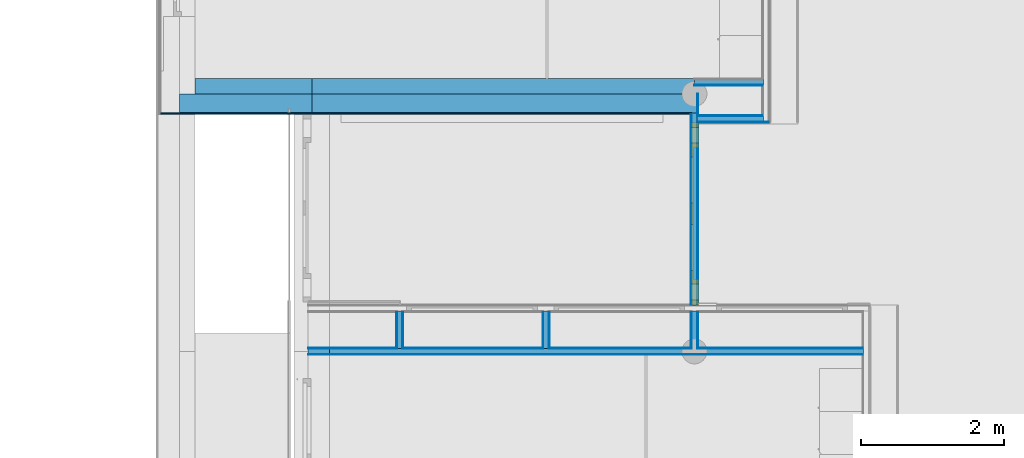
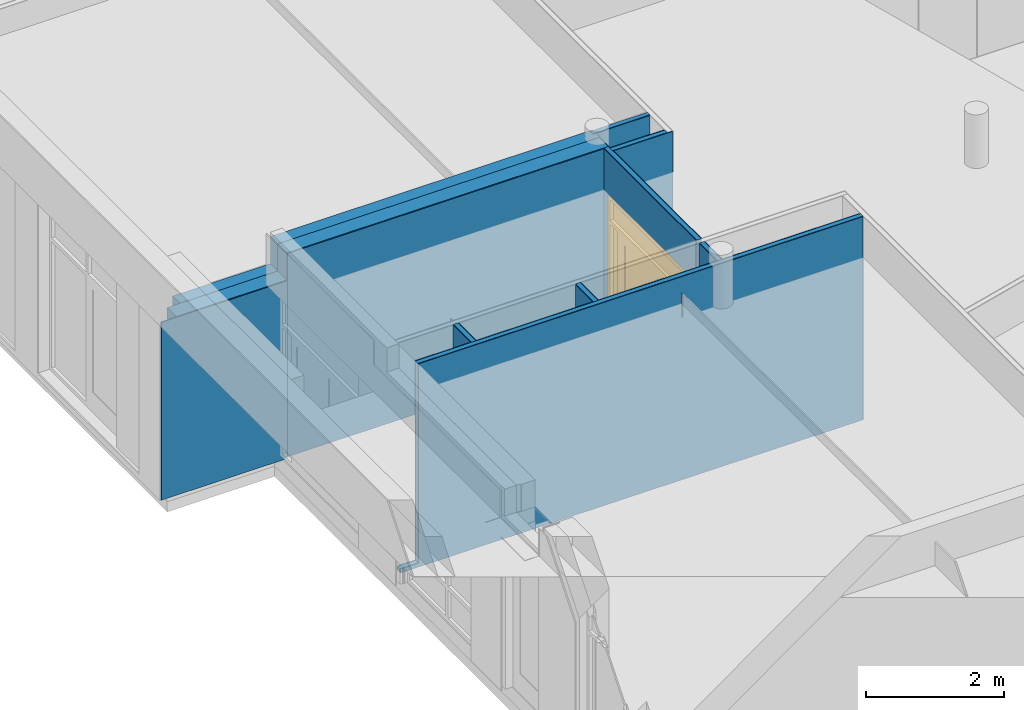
# One storey, part 58 of 167: 23 building element parts, 1 door, 2 openings, 8 elements without a shape of their own.
"""IFC2X3 building model written with IfcOpenShell, lengths in millimetres."""

import ifcopenshell
import ifcopenshell.guid

model = None  # the IFC model being written
_history = None  # IfcOwnerHistory: only IFC2X3 demands one
_inside = {}  # id of a spatial element -> (the spatial element, [elements in it])
_under = {}  # id of a project, library or spatial element -> (it, [spatial elements below it])
_declared = {}  # id of a project -> (the project, [libraries it declares])
_typed = {}  # id of a type object -> (the type object, [elements of that type])
_made_of = {}  # id of a material, layer set ... -> (it, [elements and type objects made of it])


def new_model(schema):
    """Start an empty IFC model of exactly this schema.

    Asked for "IFC4X3", IfcOpenShell would pick the latest addendum, in which some entities
    have other attributes; the version numbers below select the first issue.
    IFC2X3 requires an IfcOwnerHistory on every rooted entity: one is made here for all.
    """
    global model, _history
    if schema == "IFC4X3":
        model = ifcopenshell.file(schema_version=(4, 3, 0, 0))
    else:
        model = ifcopenshell.file(schema=schema)
    _inside.clear()
    _under.clear()
    _declared.clear()
    _typed.clear()
    _made_of.clear()
    _history = None
    if model.schema == "IFC2X3":
        org = make("IfcOrganization", Name="unknown")
        user = make(
            "IfcPersonAndOrganization",
            ThePerson=make("IfcPerson", FamilyName="unknown"),
            TheOrganization=org,
        )
        app = make(
            "IfcApplication",
            ApplicationDeveloper=org,
            Version="unknown",
            ApplicationFullName="unknown",
            ApplicationIdentifier="unknown",
        )
        _history = make(
            "IfcOwnerHistory",
            OwningUser=user,
            OwningApplication=app,
            ChangeAction="ADDED",
            CreationDate=0,
        )
    return model


def make(cls, **values):
    """One entity of the class cls with the attributes given. An attribute that is None is left unset."""
    return model.create_entity(
        cls, **{name: value for name, value in values.items() if value is not None}
    )


def entity(cls, *values):
    """Any entity or typed value of the class cls, its attributes in the order of the schema. None: left unset."""
    e = model.create_entity(cls)
    for i, value in enumerate(values):
        if value is not None:
            e[i] = value
    return e


def rooted(cls, **values):
    """An entity with a GlobalId (a new one), such as an element, a storey or a relation."""
    return make(cls, GlobalId=ifcopenshell.guid.new(), OwnerHistory=_history, **values)


def si_unit(unit_type, name, prefix=None):
    """IfcSIUnit, for example si_unit("LENGTHUNIT", "METRE", prefix="MILLI")."""
    return make("IfcSIUnit", UnitType=unit_type, Prefix=prefix, Name=name)


def converted_unit(unit_type, name, factor, base, dimensions=None, offset=None):
    """IfcConversionBasedUnit, such as the inch: factor (a typed value) times the base unit."""
    return make(
        "IfcConversionBasedUnit"
        if offset is None
        else "IfcConversionBasedUnitWithOffset",
        ConversionOffset=offset,
        Dimensions=None
        if dimensions is None
        else entity("IfcDimensionalExponents", *dimensions),
        UnitType=unit_type,
        Name=name,
        ConversionFactor=make(
            "IfcMeasureWithUnit", ValueComponent=factor, UnitComponent=base
        ),
    )


def derived_unit(unit_type, elements):
    """IfcDerivedUnit: a product of units, each with its exponent."""
    return make(
        "IfcDerivedUnit",
        Elements=[
            make("IfcDerivedUnitElement", Unit=unit, Exponent=power)
            for unit, power in elements
        ],
        UnitType=unit_type,
    )


def money_unit(currency):
    """IfcMonetaryUnit."""
    return make("IfcMonetaryUnit", Currency=currency)


def assignment(units):
    """IfcUnitAssignment: the units of a project."""
    return None if units is None else make("IfcUnitAssignment", Units=units)


def point(xyz):
    """IfcCartesianPoint."""
    return None if xyz is None else make("IfcCartesianPoint", Coordinates=xyz)


def direction(xyz):
    """IfcDirection."""
    return None if xyz is None else make("IfcDirection", DirectionRatios=xyz)


def frame(location, z_axis=None, x_axis=None):
    """IfcAxis2Placement3D, a coordinate frame: its origin and axes. An axis left out is left unset."""
    return make(
        "IfcAxis2Placement3D",
        Location=point(location),
        Axis=direction(z_axis),
        RefDirection=direction(x_axis),
    )


def origin_with_axes():
    """The frame at (0, 0, 0) with the z axis (0, 0, 1) and the x axis (1, 0, 0) written out."""
    return frame((0.0, 0.0, 0.0), z_axis=(0.0, 0.0, 1.0), x_axis=(1.0, 0.0, 0.0))


def place(relative_to, where):
    """IfcLocalPlacement: puts the frame where relative to a parent placement (None: the world)."""
    return make(
        "IfcLocalPlacement", PlacementRelTo=relative_to, RelativePlacement=where
    )


def context(
    kind, dimensions, precision=None, world=None, true_north=None, identifier=None
):
    """IfcGeometricRepresentationContext, for example the 3D "Model" context."""
    return make(
        "IfcGeometricRepresentationContext",
        ContextIdentifier=identifier,
        ContextType=kind,
        CoordinateSpaceDimension=dimensions,
        Precision=precision,
        WorldCoordinateSystem=world,
        TrueNorth=true_north,
    )


def subcontext(parent, identifier, kind, view, scale=None):
    """IfcGeometricRepresentationSubContext, for example "Body" below "Model"."""
    return make(
        "IfcGeometricRepresentationSubContext",
        ContextIdentifier=identifier,
        ContextType=kind,
        ParentContext=parent,
        TargetScale=scale,
        TargetView=view,
    )


def project(units=None, contexts=None):
    """IfcProject with its units and contexts."""
    return rooted(
        "IfcProject",
        Name="project",
        RepresentationContexts=contexts,
        UnitsInContext=assignment(units),
    )


def spatial(cls, under=None, at=None, **own):
    """A site, building, storey or space (cls), placed at a placement, below another one or the project."""
    s = rooted(cls, ObjectPlacement=at, **own)
    if under is not None:
        _under.setdefault(under.id(), (under, []))[1].append(s)
    return s


def faces_of(points, faces, orient=None, outer=None):
    """IfcFace entities. A face is a list of loops; a loop is a list of indices into points, from 0.

    orient and outer hold one flag for each loop. By default every Orientation is true, the
    first loop of a face is its IfcFaceOuterBound and the others are IfcFaceBound.
    """
    made = []
    for i, loops in enumerate(faces):
        bounds = []
        for j, loop in enumerate(loops):
            is_outer = j == 0 if outer is None else outer[i][j]
            bounds.append(
                make(
                    "IfcFaceOuterBound" if is_outer else "IfcFaceBound",
                    Bound=make("IfcPolyLoop", Polygon=[points[k] for k in loop]),
                    Orientation=True if orient is None else orient[i][j],
                )
            )
        made.append(make("IfcFace", Bounds=bounds))
    return made


def open_shell(faces, orient=None, outer=None):
    """The faces of one IfcOpenShell. surface_model builds it on its shared points."""
    return ("IfcOpenShell", faces, orient, outer)


def faceted_brep(points, faces, orient=None, outer=None, voids=None):
    """IfcFacetedBrep: a solid bounded by flat faces; with voids (closed shells), ...WithVoids."""
    shared = [point(p) for p in points]
    hull = make("IfcClosedShell", CfsFaces=faces_of(shared, faces, orient, outer))
    if voids is None:
        return make("IfcFacetedBrep", Outer=hull)
    return make(
        "IfcFacetedBrepWithVoids",
        Outer=hull,
        Voids=[
            make(cls, CfsFaces=faces_of(shared, fs, o, b)) for cls, fs, o, b in voids
        ],
    )


def surface_model(cls, points, shells):
    """IfcFaceBasedSurfaceModel or IfcShellBasedSurfaceModel (cls): surfaces that need not close."""
    shared = [point(p) for p in points]
    made = [make(c, CfsFaces=faces_of(shared, fs, o, b)) for c, fs, o, b in shells]
    if cls == "IfcFaceBasedSurfaceModel":
        return make(cls, FbsmFaces=made)
    return make(cls, SbsmBoundary=made)


def shape(context_of_items, identifier, shape_type, items):
    """IfcShapeRepresentation: the items that make up one representation, for example the "Body"."""
    return make(
        "IfcShapeRepresentation",
        ContextOfItems=context_of_items,
        RepresentationIdentifier=identifier,
        RepresentationType=shape_type,
        Items=items,
    )


def material(Name=None, Category=None):
    """IfcMaterial."""
    return make("IfcMaterial", Name=Name, Category=Category)


def made_of(thing, what):
    """Note that an element or type object is made of a material, layer set ...; save() writes the relation."""
    if what is not None:
        _made_of.setdefault(what.id(), (what, []))[1].append(thing)
    return thing


def type_object(cls, material=None, **own):
    """A type object (cls), such as IfcWallType, which elements share."""
    return made_of(rooted(cls, **own), material)


def element(
    cls,
    number,
    at=None,
    inside=None,
    cuts=None,
    type_object=None,
    material=None,
    context=None,
    identifier="Body",
    shape_type=None,
    held_by="IfcProductDefinitionShape",
    body=None,
    shapes=None,
    **own,
):
    """One element of the class cls, such as IfcWall. Its Tag is "e" and its number.

    at: its placement. inside: the storey or other place that contains it. cuts: it is an
    opening in that element (IfcRelVoidsElement). A single representation is given by context,
    identifier, shape_type and body (its items); several are given by shapes. held_by: the class
    of the entity that holds the representations. save() writes the other relations.
    """
    e = rooted(cls, Tag="e%d" % number, ObjectPlacement=at, **own)
    if body is not None:
        shapes = [shape(context, identifier, shape_type, body)]
    if shapes is not None:
        e.Representation = make(held_by, Representations=shapes)
    if inside is not None:
        _inside.setdefault(inside.id(), (inside, []))[1].append(e)
    if cuts is not None:
        rooted(
            "IfcRelVoidsElement", RelatingBuildingElement=cuts, RelatedOpeningElement=e
        )
    if type_object is not None:
        _typed.setdefault(type_object.id(), (type_object, []))[1].append(e)
    return made_of(e, material)


def fill(opening, filler):
    """IfcRelFillsElement: the door or window that sits in an opening."""
    return rooted(
        "IfcRelFillsElement",
        RelatingOpeningElement=opening,
        RelatedBuildingElement=filler,
    )


def aggregate(whole, parts):
    """IfcRelAggregates: a whole, such as a stair, and the parts it consists of."""
    return rooted("IfcRelAggregates", RelatingObject=whole, RelatedObjects=parts)


def save(model, path):
    """Write the relations noted so far, then the file.

    IfcRelAggregates (storeys below a building ...), IfcRelContainedInSpatialStructure (elements
    in a storey), IfcRelDefinesByType, IfcRelAssociatesMaterial and IfcRelDeclares: one each for
    every whole, place, type object, material and project.
    """
    for whole, parts in _under.values():
        aggregate(whole, parts)
    for where, things in _inside.values():
        rooted(
            "IfcRelContainedInSpatialStructure",
            RelatedElements=things,
            RelatingStructure=where,
        )
    for kind, things in _typed.values():
        rooted("IfcRelDefinesByType", RelatedObjects=things, RelatingType=kind)
    for what, things in _made_of.values():
        rooted("IfcRelAssociatesMaterial", RelatedObjects=things, RelatingMaterial=what)
    for by, libraries in _declared.values():
        rooted("IfcRelDeclares", RelatingContext=by, RelatedDefinitions=libraries)
    model.write(path)


model = new_model("IFC2X3")

# Units and contexts
model_context = context("Model", 3, precision=0.01, world=origin_with_axes(), true_north=direction((0.0, 1.0)))
plan_context = context("Plan", 3, precision=0.01, world=origin_with_axes(), true_north=direction((0.0, 1.0)))
body_context = subcontext(model_context, "Body", "Model", "MODEL_VIEW")
ifc_project = project(units=[si_unit("LENGTHUNIT", "METRE", prefix="MILLI"), si_unit("AREAUNIT", "SQUARE_METRE"), si_unit("VOLUMEUNIT", "CUBIC_METRE"), converted_unit("PLANEANGLEUNIT", "DEGREE", entity("IfcPlaneAngleMeasure", 0.0174532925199), si_unit("PLANEANGLEUNIT", "RADIAN"), dimensions=[0, 0, 0, 0, 0, 0, 0]), si_unit("SOLIDANGLEUNIT", "STERADIAN"), money_unit("EUR"), converted_unit("TIMEUNIT", "Year", entity("IfcTimeMeasure", 31556926.0), si_unit("TIMEUNIT", "SECOND"), dimensions=[0, 0, 1, 0, 0, 0, 0]), si_unit("MASSUNIT", "GRAM", prefix="KILO"), si_unit("THERMODYNAMICTEMPERATUREUNIT", "DEGREE_CELSIUS"), si_unit("LUMINOUSINTENSITYUNIT", "LUMEN"), si_unit("ENERGYUNIT", "JOULE", prefix="MEGA"), derived_unit("THERMALCONDUCTANCEUNIT", [(si_unit("POWERUNIT", "WATT"), 1), (si_unit("LENGTHUNIT", "METRE"), -1), (si_unit("THERMODYNAMICTEMPERATUREUNIT", "KELVIN"), -1)]), derived_unit("SPECIFICHEATCAPACITYUNIT", [(si_unit("ENERGYUNIT", "JOULE"), 1), (si_unit("MASSUNIT", "GRAM", prefix="KILO"), -1), (si_unit("THERMODYNAMICTEMPERATUREUNIT", "KELVIN"), -1)]), derived_unit("MASSDENSITYUNIT", [(si_unit("MASSUNIT", "GRAM", prefix="KILO"), 1), (si_unit("VOLUMEUNIT", "CUBIC_METRE"), -1)])], contexts=[model_context, plan_context])

# Site, building, storey
site_placement = place(None, origin_with_axes())
site = spatial("IfcSite", under=ifc_project, at=site_placement, Name="Site", CompositionType="ELEMENT")
building_placement = place(site_placement, origin_with_axes())
building = spatial("IfcBuilding", under=site, at=building_placement, Name="Naam gebouw", CompositionType="ELEMENT")
storey_placement = place(building_placement, origin_with_axes())
storey = spatial("IfcBuildingStorey", under=building, at=storey_placement, Name="Begane grond", CompositionType="ELEMENT", Elevation=0.0)

# Door
door_style = type_object("IfcDoorStyle", Name="D2 bl zl2 24", ConstructionType="NOTDEFINED", OperationType="USERDEFINED", ParameterTakesPrecedence=False, Sizeable=False)
wall_4_placement = place(storey_placement, frame((7200.0, 21600.0, -100.0), z_axis=(0.0, 0.0, 1.0), x_axis=(0.0, -1.0, 0.0)))
opening_2_placement = place(wall_4_placement, frame((1675.0, 0.0, 100.0), z_axis=(0.0, 0.0, 1.0), x_axis=(1.0, 0.0, 0.0)))
door_placement = place(opening_2_placement, frame((1275.0, 0.0, 0.0), z_axis=(0.0, 0.0, 1.0), x_axis=(-1.0, 0.0, 0.0)))
door = element("IfcDoor", 1, at=door_placement, inside=storey, type_object=door_style, Name="32_Deur_Hi-21", ObjectType="DOOR", OverallHeight=2800.0, OverallWidth=2550.0, context=body_context, shape_type="SurfaceModel", body=[
    faceted_brep([(0.0, 50.0, 0.0), (67.0, 50.0, 0.0), (67.0, -64.0, 0.0), (0.0, -64.0, 0.0), (0.0, 50.0, 2733.0), (67.0, 50.0, 2733.0), (67.0, 50.0, 2375.0), (67.0, 50.0, 2300.0), (67.0, 50.0, 67.0), (67.0, -64.0, 67.0), (67.0, -64.0, 2300.0), (67.0, -64.0, 2375.0), (67.0, -64.0, 2733.0), (0.0, -64.0, 2733.0)], [[[0, 1, 2, 3]], [[0, 4, 5, 6, 7, 8, 1]], [[1, 8, 9, 2]], [[3, 2, 9, 10, 11, 12, 13]], [[4, 0, 3, 13]], [[5, 4, 13, 12]], [[6, 5, 12, 11]], [[7, 6, 11, 10]], [[8, 7, 10, 9]]]),
    faceted_brep([(359.5, 10.0, 0.0), (359.5, 10.0, 2300.0), (359.5, -64.0, 2300.0), (359.5, -64.0, 0.0), (334.5, 10.0, 2300.0), (334.5, 10.0, 0.0), (334.5, 50.0, 2300.0), (292.5, 50.0, 2300.0), (292.5, -64.0, 2300.0), (292.5, -64.0, 0.0), (292.5, -64.0, 67.0), (292.5, 50.0, 0.0), (334.5, 50.0, 0.0), (292.5, 50.0, 67.0)], [[[0, 1, 2, 3]], [[4, 1, 0, 5]], [[4, 6, 7, 8, 2, 1]], [[9, 3, 2, 8, 10]], [[5, 0, 3, 9, 11, 12]], [[6, 4, 5, 12]], [[6, 12, 11, 13, 7]], [[13, 10, 8, 7]], [[11, 9, 10, 13]]]),
    faceted_brep([(67.0, 50.0, 67.0), (67.0, 50.0, 0.0), (67.0, -64.0, 0.0), (67.0, -64.0, 67.0), (292.5, 50.0, 67.0), (292.5, 50.0, 0.0), (292.5, -64.0, 0.0), (292.5, -64.0, 67.0)], [[[0, 1, 2, 3]], [[0, 4, 5, 1]], [[1, 5, 6, 2]], [[3, 2, 6, 7]], [[4, 0, 3, 7]], [[5, 4, 7, 6]]]),
    faceted_brep([(2550.0, 50.0, 0.0), (2550.0, 50.0, 2733.0), (2550.0, -64.0, 2733.0), (2550.0, -64.0, 0.0), (2483.0, 50.0, 0.0), (2483.0, 50.0, 67.0), (2483.0, 50.0, 2300.0), (2483.0, 50.0, 2375.0), (2483.0, 50.0, 2733.0), (2483.0, -64.0, 2733.0), (2483.0, -64.0, 2375.0), (2483.0, -64.0, 2300.0), (2483.0, -64.0, 67.0), (2483.0, -64.0, 0.0)], [[[0, 1, 2, 3]], [[0, 4, 5, 6, 7, 8, 1]], [[1, 8, 9, 2]], [[3, 2, 9, 10, 11, 12, 13]], [[4, 0, 3, 13]], [[5, 4, 13, 12]], [[6, 5, 12, 11]], [[7, 6, 11, 10]], [[8, 7, 10, 9]]]),
    faceted_brep([(2215.5, 10.0, 2300.0), (2190.5, 10.0, 2300.0), (2190.5, -64.0, 2300.0), (2265.5, -64.0, 2300.0), (2265.5, 50.0, 2300.0), (2215.5, 50.0, 2300.0), (2215.5, 10.0, 0.0), (2190.5, 10.0, 0.0), (2190.5, -64.0, 0.0), (2265.5, -64.0, 0.0), (2265.5, -64.0, 67.0), (2265.5, 50.0, 67.0), (2215.5, 50.0, 0.0), (2265.5, 50.0, 0.0)], [[[0, 1, 2, 3, 4, 5]], [[1, 0, 6, 7]], [[1, 7, 8, 2]], [[8, 9, 10, 3, 2]], [[4, 3, 10, 11]], [[12, 5, 4, 11, 13]], [[0, 5, 12, 6]], [[6, 12, 13, 9, 8, 7]], [[11, 10, 9, 13]]]),
    faceted_brep([(2265.5, 50.0, 67.0), (2265.5, 50.0, 0.0), (2265.5, -64.0, 0.0), (2265.5, -64.0, 67.0), (2483.0, 50.0, 67.0), (2483.0, 50.0, 0.0), (2483.0, -64.0, 0.0), (2483.0, -64.0, 67.0)], [[[0, 1, 2, 3]], [[0, 4, 5, 1]], [[1, 5, 6, 2]], [[3, 2, 6, 7]], [[4, 0, 3, 7]], [[5, 4, 7, 6]]]),
    faceted_brep([(0.0, 50.0, 2800.0), (0.0, 50.0, 2733.0), (0.0, -64.0, 2733.0), (0.0, -64.0, 2800.0), (2550.0, 50.0, 2800.0), (2550.0, 50.0, 2733.0), (2483.0, 50.0, 2733.0), (67.0, 50.0, 2733.0), (67.0, -64.0, 2733.0), (2483.0, -64.0, 2733.0), (2550.0, -64.0, 2733.0), (2550.0, -64.0, 2800.0)], [[[0, 1, 2, 3]], [[0, 4, 5, 6, 7, 1]], [[1, 7, 8, 2]], [[3, 2, 8, 9, 10, 11]], [[4, 0, 3, 11]], [[5, 4, 11, 10]], [[6, 5, 10, 9]], [[7, 6, 9, 8]]]),
    faceted_brep([(334.5, 50.0, 2325.0), (334.5, 50.0, 2300.0), (292.5, 50.0, 2300.0), (67.0, 50.0, 2300.0), (67.0, 50.0, 2375.0), (2483.0, 50.0, 2375.0), (2483.0, 50.0, 2300.0), (2265.5, 50.0, 2300.0), (2215.5, 50.0, 2300.0), (2215.5, 50.0, 2325.0), (334.5, 10.0, 2325.0), (334.5, 10.0, 2300.0), (359.5, 10.0, 2300.0), (359.5, -64.0, 2300.0), (292.5, -64.0, 2300.0), (67.0, -64.0, 2300.0), (67.0, -64.0, 2375.0), (2483.0, -64.0, 2375.0), (2483.0, -64.0, 2300.0), (2265.5, -64.0, 2300.0), (2215.5, 10.0, 2300.0), (2190.5, -64.0, 2300.0), (2190.5, 10.0, 2300.0), (2215.5, 10.0, 2325.0)], [[[0, 1, 2, 3, 4, 5, 6, 7, 8, 9]], [[1, 0, 10, 11]], [[11, 12, 13, 14, 2, 1]], [[2, 14, 15, 3]], [[3, 15, 16, 4]], [[4, 16, 17, 5]], [[5, 17, 18, 6]], [[6, 18, 19, 7]], [[20, 8, 7, 19, 21, 22]], [[9, 8, 20, 23]], [[0, 9, 23, 10]], [[20, 22, 12, 11, 10, 23]], [[12, 22, 21, 13]], [[18, 17, 16, 15, 14, 13, 21, 19]]]),
    faceted_brep([(2215.5, 50.0, 300.0), (2215.5, 10.0, 300.0), (2065.5, 10.0, 300.0), (2065.5, 50.0, 300.0), (2215.5, 50.0, 2175.0), (2215.5, 10.0, 2175.0), (2065.5, 10.0, 2175.0), (2065.5, 50.0, 2175.0)], [[[0, 1, 2, 3]], [[4, 5, 1, 0]], [[1, 5, 6, 2]], [[3, 2, 6, 7]], [[0, 3, 7, 4]], [[7, 6, 5, 4]]]),
    faceted_brep([(1275.0, 50.0, 300.0), (1275.0, 10.0, 300.0), (1275.0, 10.0, 2175.0), (1275.0, 50.0, 2175.0), (1425.0, 50.0, 300.0), (1425.0, 10.0, 300.0), (1425.0, 10.0, 2175.0), (1425.0, 50.0, 2175.0)], [[[0, 1, 2, 3]], [[4, 5, 1, 0]], [[1, 5, 6, 2]], [[3, 2, 6, 7]], [[0, 3, 7, 4]], [[7, 6, 5, 4]]]),
    faceted_brep([(2215.5, 50.0, 0.0), (2215.5, 10.0, 0.0), (1275.0, 10.0, 0.0), (1275.0, 50.0, 0.0), (2215.5, 50.0, 300.0), (2215.5, 10.0, 300.0), (2065.5, 10.0, 300.0), (1425.0, 10.0, 300.0), (1275.0, 10.0, 300.0), (1275.0, 50.0, 300.0), (1425.0, 50.0, 300.0), (2065.5, 50.0, 300.0)], [[[0, 1, 2, 3]], [[4, 5, 1, 0]], [[1, 5, 6, 7, 8, 2]], [[3, 2, 8, 9]], [[0, 3, 9, 10, 11, 4]], [[11, 6, 5, 4]], [[10, 7, 6, 11]], [[9, 8, 7, 10]]]),
    faceted_brep([(2215.5, 50.0, 2325.0), (2215.5, 10.0, 2325.0), (2215.5, 10.0, 2175.0), (2215.5, 50.0, 2175.0), (1275.0, 50.0, 2325.0), (1275.0, 10.0, 2325.0), (1275.0, 10.0, 2175.0), (1425.0, 10.0, 2175.0), (2065.5, 10.0, 2175.0), (2065.5, 50.0, 2175.0), (1425.0, 50.0, 2175.0), (1275.0, 50.0, 2175.0)], [[[0, 1, 2, 3]], [[4, 5, 1, 0]], [[1, 5, 6, 7, 8, 2]], [[3, 2, 8, 9]], [[0, 3, 9, 10, 11, 4]], [[11, 6, 5, 4]], [[10, 7, 6, 11]], [[9, 8, 7, 10]]]),
    surface_model("IfcShellBasedSurfaceModel", [(2065.5, 36.0, 300.0), (1425.0, 36.0, 300.0), (1425.0, 36.0, 2175.0), (2065.5, 36.0, 2175.0)], [open_shell([[[0, 1, 2, 3]]])]),
    surface_model("IfcShellBasedSurfaceModel", [(2065.5, 24.0, 300.0), (2065.5, 24.0, 2175.0), (1425.0, 24.0, 2175.0), (1425.0, 24.0, 300.0)], [open_shell([[[0, 1, 2, 3]]])]),
    faceted_brep([(334.5, 50.0, 300.0), (484.5, 50.0, 300.0), (484.5, 10.0, 300.0), (334.5, 10.0, 300.0), (334.5, 50.0, 2175.0), (484.5, 50.0, 2175.0), (484.5, 10.0, 2175.0), (334.5, 10.0, 2175.0)], [[[0, 1, 2, 3]], [[0, 4, 5, 1]], [[1, 5, 6, 2]], [[3, 2, 6, 7]], [[4, 0, 3, 7]], [[5, 4, 7, 6]]]),
    faceted_brep([(1275.0, 50.0, 300.0), (1275.0, 50.0, 2175.0), (1275.0, 10.0, 2175.0), (1275.0, 10.0, 300.0), (1125.0, 50.0, 300.0), (1125.0, 50.0, 2175.0), (1125.0, 10.0, 2175.0), (1125.0, 10.0, 300.0)], [[[0, 1, 2, 3]], [[0, 4, 5, 1]], [[1, 5, 6, 2]], [[3, 2, 6, 7]], [[4, 0, 3, 7]], [[5, 4, 7, 6]]]),
    faceted_brep([(334.5, 50.0, 0.0), (1275.0, 50.0, 0.0), (1275.0, 10.0, 0.0), (334.5, 10.0, 0.0), (334.5, 50.0, 300.0), (484.5, 50.0, 300.0), (1125.0, 50.0, 300.0), (1275.0, 50.0, 300.0), (1275.0, 10.0, 300.0), (1125.0, 10.0, 300.0), (484.5, 10.0, 300.0), (334.5, 10.0, 300.0)], [[[0, 1, 2, 3]], [[0, 4, 5, 6, 7, 1]], [[1, 7, 8, 2]], [[3, 2, 8, 9, 10, 11]], [[4, 0, 3, 11]], [[5, 4, 11, 10]], [[6, 5, 10, 9]], [[7, 6, 9, 8]]]),
    faceted_brep([(334.5, 50.0, 2325.0), (334.5, 50.0, 2175.0), (334.5, 10.0, 2175.0), (334.5, 10.0, 2325.0), (1275.0, 50.0, 2325.0), (1275.0, 50.0, 2175.0), (1125.0, 50.0, 2175.0), (484.5, 50.0, 2175.0), (484.5, 10.0, 2175.0), (1125.0, 10.0, 2175.0), (1275.0, 10.0, 2175.0), (1275.0, 10.0, 2325.0)], [[[0, 1, 2, 3]], [[0, 4, 5, 6, 7, 1]], [[1, 7, 8, 2]], [[3, 2, 8, 9, 10, 11]], [[4, 0, 3, 11]], [[5, 4, 11, 10]], [[6, 5, 10, 9]], [[7, 6, 9, 8]]]),
    surface_model("IfcShellBasedSurfaceModel", [(484.5, 36.0, 300.0), (484.5, 36.0, 2175.0), (1125.0, 36.0, 2175.0), (1125.0, 36.0, 300.0)], [open_shell([[[0, 1, 2, 3]]])]),
    surface_model("IfcShellBasedSurfaceModel", [(484.5, 24.0, 300.0), (1125.0, 24.0, 300.0), (1125.0, 24.0, 2175.0), (484.5, 24.0, 2175.0)], [open_shell([[[0, 1, 2, 3]]])]),
    surface_model("IfcShellBasedSurfaceModel", [(67.0, -4.0, 2375.0), (67.0, -4.0, 2733.0), (2483.0, -4.0, 2733.0), (2483.0, -4.0, 2375.0)], [open_shell([[[0, 1, 2, 3]]])]),
    surface_model("IfcShellBasedSurfaceModel", [(67.0, -16.0, 2375.0), (2483.0, -16.0, 2375.0), (2483.0, -16.0, 2733.0), (67.0, -16.0, 2733.0)], [open_shell([[[0, 1, 2, 3]]])]),
    surface_model("IfcShellBasedSurfaceModel", [(67.0, -4.0, 67.0), (67.0, -4.0, 2300.0), (292.5, -4.0, 2300.0), (292.5, -4.0, 67.0)], [open_shell([[[0, 1, 2, 3]]])]),
    surface_model("IfcShellBasedSurfaceModel", [(67.0, -16.0, 67.0), (292.5, -16.0, 67.0), (292.5, -16.0, 2300.0), (67.0, -16.0, 2300.0)], [open_shell([[[0, 1, 2, 3]]])]),
    surface_model("IfcShellBasedSurfaceModel", [(2265.5, -4.0, 67.0), (2265.5, -4.0, 2300.0), (2483.0, -4.0, 2300.0), (2483.0, -4.0, 67.0)], [open_shell([[[0, 1, 2, 3]]])]),
    surface_model("IfcShellBasedSurfaceModel", [(2265.5, -16.0, 67.0), (2483.0, -16.0, 67.0), (2483.0, -16.0, 2300.0), (2265.5, -16.0, 2300.0)], [open_shell([[[0, 1, 2, 3]]])]),
])

# Wall, opening, building element parts
wall_type_1 = type_object("IfcWallType", Name="_TenW_21_E-BOARD_bg_standaard 498", PredefinedType="NOTDEFINED")
wall_1_placement = place(storey_placement, frame((0.0, 21600.0, -100.0), z_axis=(0.0, 0.0, 1.0), x_axis=(1.0, 0.0, 0.0)))
wall_1 = element("IfcWall", 2, at=wall_1_placement, inside=storey, type_object=wall_type_1, Name="21_Wand_Wand-x")
opening_1_placement = place(wall_1_placement, frame((4506.84695121, 0.0, 100.0), z_axis=(0.0, 0.0, 1.0), x_axis=(1.0, 0.0, 0.0)))
element("IfcOpeningElement", 3, at=opening_1_placement, cuts=wall_1, Name="31_Raam_-", context=body_context, shape_type="Brep", body=[
    faceted_brep([(-2253.15304879, -4.0, 0.0), (2253.15304879, -4.0, 0.0), (2253.15304879, -782.0, 0.0), (-2253.15304879, -782.0, 0.0), (-2253.15304879, -4.0, 1200.0), (2253.15304879, -4.0, 1200.0), (2253.15304879, -782.0, 1200.0), (-2253.15304879, -782.0, 1200.0)], [[[0, 1, 2, 3]], [[0, 4, 5, 1]], [[1, 5, 6, 2]], [[3, 2, 6, 7]], [[4, 0, 3, 7]], [[5, 4, 7, 6]]]),
])
ifc_material_1 = material(Name="Steen - Kalkzandsteen C")
building_element_part_1_placement = place(wall_1_placement, origin_with_axes())
building_element_part_1 = element("IfcBuildingElementPart", 4, at=building_element_part_1_placement, material=ifc_material_1, Name="Steen - Kalkzandsteen C", context=body_context, shape_type="Brep", body=[
    faceted_brep([(1850.41854412, 0.0, 30.0), (1850.41854412, 214.0, 30.0), (1850.41854412, 214.0, 3150.0), (1850.41854412, 0.0, 3150.0), (1800.0, 0.0, 30.0), (214.0, 0.0, 30.0), (214.0, 214.0, 30.0), (214.0, 214.0, 3150.0), (214.0, 0.0, 3150.0)], [[[0, 1, 2, 3]], [[1, 0, 4, 5, 6]], [[1, 6, 7, 2]], [[8, 3, 2, 7]], [[4, 0, 3, 8, 5]], [[6, 5, 8, 7]]]),
])
ifc_material_2 = material(Name="Isolatie - Steenwol zacht")
building_element_part_2_placement = place(wall_1_placement, origin_with_axes())
building_element_part_2 = element("IfcBuildingElementPart", 5, at=building_element_part_2_placement, material=ifc_material_2, Name="Isolatie - Steenwol zacht", context=body_context, shape_type="Brep", body=[
    faceted_brep([(1850.41854412, -264.0, 30.0), (1850.41854412, 0.0, 30.0), (1850.41854412, 0.0, 3150.0), (1850.41854412, -264.0, 3150.0), (1800.0, 0.0, 30.0), (1800.0, -264.0, 30.0), (1800.0, 0.0, 0.0), (0.0, 0.0, 0.0), (0.0, 0.0, 3150.0), (0.0, -264.0, 3150.0), (0.0, -264.0, 0.0), (1800.0, -264.0, 0.0)], [[[0, 1, 2, 3]], [[4, 1, 0, 5]], [[4, 6, 7, 8, 2, 1]], [[9, 3, 2, 8]], [[5, 0, 3, 9, 10, 11]], [[11, 6, 4, 5]], [[6, 11, 10, 7]], [[8, 7, 10, 9]]]),
])
ifc_material_3 = material(Name="_TenW_21_Steen - Baksteen")
building_element_part_3_placement = place(wall_1_placement, origin_with_axes())
building_element_part_3 = element("IfcBuildingElementPart", 6, at=building_element_part_3_placement, material=ifc_material_3, Name="_TenW_21_Steen - Baksteen", context=body_context, shape_type="Brep", body=[
    faceted_brep([(1850.41854412, -284.0, 30.0), (1850.41854412, -264.0, 30.0), (1850.41854412, -264.0, 3150.0), (1850.41854412, -284.0, 3150.0), (1800.0, -264.0, 30.0), (1800.0, -284.0, 30.0), (1800.0, -264.0, 0.0), (-264.0, -264.0, 0.0), (-264.0, -264.0, 3150.0), (-264.0, -284.0, 3150.0), (-264.0, -284.0, 0.0), (1800.0, -284.0, 0.0)], [[[0, 1, 2, 3]], [[4, 1, 0, 5]], [[4, 6, 7, 8, 2, 1]], [[9, 3, 2, 8]], [[5, 0, 3, 9, 10, 11]], [[6, 4, 5, 11]], [[6, 11, 10, 7]], [[8, 7, 10, 9]]]),
])
aggregate(wall_1, [building_element_part_1, building_element_part_2, building_element_part_3])

# Wall, building element parts
wall_type_2 = type_object("IfcWallType", Name="_TenW_22_Metalstud 100 enkel gipsvezelplaat 100", PredefinedType="NOTDEFINED")
wall_2_placement = place(storey_placement, frame((9600.0, 18000.0000903, -100.0), z_axis=(0.0, 0.0, 1.0), x_axis=(-1.0, 0.0, 0.0)))
wall_2 = element("IfcWall", 7, at=wall_2_placement, inside=storey, type_object=wall_type_2, Name="22_Wand_Wand-x")
ifc_material_4 = material(Name="Gipsplaat watervast")
building_element_part_4_placement = place(wall_2_placement, origin_with_axes())
building_element_part_4 = element("IfcBuildingElementPart", 8, at=building_element_part_4_placement, material=ifc_material_4, Name="Gipsplaat watervast", context=body_context, shape_type="Brep", body=[
    faceted_brep([(50.0, 50.0, 30.0), (50.0, 37.5, 30.0), (50.0, 37.5, 3629.99999755), (50.0, 50.0, 3629.99999755), (7800.0, 37.5, 30.0), (7800.0, 50.0, 30.0), (7800.0, 37.5, 100.0), (7500.0, 37.5, 100.0), (7500.0, 37.5, 3629.99999752), (3089.999981, 37.5, 3330.0), (3089.999981, 37.5, 2910.0), (3064.999981, 37.5, 2910.0), (3064.999981, 37.5, 3330.0), (7500.0, 50.0, 3629.99999752), (7500.0, 50.0, 100.0), (7800.0, 50.0, 100.0), (3064.999981, 50.0, 2910.0), (3089.999981, 50.0, 2910.0), (3089.999981, 50.0, 3330.0), (3064.999981, 50.0, 3330.0)], [[[0, 1, 2, 3]], [[4, 1, 0, 5]], [[1, 4, 6, 7, 8, 2], [9, 10, 11, 12]], [[2, 8, 13, 3]], [[5, 0, 3, 13, 14, 15], [16, 17, 18, 19]], [[4, 5, 15, 6]], [[14, 7, 6, 15]], [[14, 13, 8, 7]], [[17, 10, 9, 18]], [[16, 11, 10, 17]], [[19, 12, 11, 16]], [[18, 9, 12, 19]]]),
])
building_element_part_5_placement = place(wall_2_placement, origin_with_axes())
building_element_part_5 = element("IfcBuildingElementPart", 9, at=building_element_part_5_placement, material=ifc_material_2, Name="Isolatie - Steenwol zacht", context=body_context, shape_type="Brep", body=[
    faceted_brep([(37.5, 37.5, 30.0), (37.5, -37.5, 30.0), (37.5, -37.5, 3629.99999755), (37.5, 37.5, 3629.99999755), (7800.0, -37.5, 30.0), (7800.0, 37.5, 30.0), (7800.0, -37.5, 100.0), (7500.0, -37.5, 100.0), (7500.0, -37.5, 3629.99999752), (7500.0, 37.5, 3629.99999752), (7500.0, 37.5, 100.0), (7800.0, 37.5, 100.0)], [[[0, 1, 2, 3]], [[4, 1, 0, 5]], [[1, 4, 6, 7, 8, 2]], [[2, 8, 9, 3]], [[5, 0, 3, 9, 10, 11]], [[4, 5, 11, 6]], [[10, 7, 6, 11]], [[10, 9, 8, 7]]]),
])
building_element_part_6_placement = place(wall_2_placement, origin_with_axes())
building_element_part_6 = element("IfcBuildingElementPart", 10, at=building_element_part_6_placement, material=ifc_material_4, Name="Gipsplaat watervast", context=body_context, shape_type="Brep", body=[
    faceted_brep([(6557.54693941, -37.5, 30.0), (6557.54693941, -50.0, 30.0), (6557.54693941, -50.0, 3629.99999855), (6557.54693941, -37.5, 3629.99999855), (7800.0, -50.0, 30.0), (7800.0, -37.5, 30.0), (7800.0, -50.0, 100.0), (7500.0, -50.0, 100.0), (7500.0, -50.0, 3629.99999752), (7500.0, -37.5, 3629.99999752), (7500.0, -37.5, 100.0), (7800.0, -37.5, 100.0)], [[[0, 1, 2, 3]], [[4, 1, 0, 5]], [[1, 4, 6, 7, 8, 2]], [[2, 8, 9, 3]], [[5, 0, 3, 9, 10, 11]], [[4, 5, 11, 6]], [[10, 7, 6, 11]], [[10, 9, 8, 7]]]),
    faceted_brep([(50.0, -37.5, 30.0), (50.0, -50.0, 30.0), (50.0, -50.0, 3629.99999755), (50.0, -37.5, 3629.99999755), (2362.5, -50.0, 30.0), (2362.5, -37.5, 30.0), (2362.5, -50.0, 3629.9999979), (2362.5, -37.5, 3629.9999979)], [[[0, 1, 2, 3]], [[4, 1, 0, 5]], [[1, 4, 6, 2]], [[6, 7, 3, 2]], [[5, 0, 3, 7]], [[4, 5, 7, 6]]]),
    faceted_brep([(2437.5, -37.5, 30.0), (2437.5, -50.0, 30.0), (2437.5, -50.0, 3629.99999791), (2437.5, -37.5, 3629.99999791), (4436.83571712, -50.0, 30.0), (4436.83571712, -37.5, 30.0), (4436.83571712, -50.0, 3629.99999822), (4436.83571712, -37.5, 3629.99999822)], [[[0, 1, 2, 3]], [[4, 1, 0, 5]], [[1, 4, 6, 2]], [[6, 7, 3, 2]], [[5, 0, 3, 7]], [[4, 5, 7, 6]]]),
    faceted_brep([(4511.83571712, -37.5, 30.0), (4511.83571712, -50.0, 30.0), (4511.83571712, -50.0, 3629.99999823), (4511.83571712, -37.5, 3629.99999823), (6482.54693941, -50.0, 30.0), (6482.54693941, -37.5, 30.0), (6482.54693941, -50.0, 3629.99999853), (6482.54693941, -37.5, 3629.99999853)], [[[0, 1, 2, 3]], [[4, 1, 0, 5]], [[1, 4, 6, 2]], [[6, 7, 3, 2]], [[5, 0, 3, 7]], [[4, 5, 7, 6]]]),
])
aggregate(wall_2, [building_element_part_4, building_element_part_5, building_element_part_6])

wall_3_placement = place(storey_placement, frame((8200.0, 21250.0, -100.0), z_axis=(0.0, 0.0, 1.0), x_axis=(-1.0, 0.0, 0.0)))
wall_3 = element("IfcWall", 11, at=wall_3_placement, inside=storey, type_object=wall_type_2, Name="22_Wand_Wand-x")
building_element_part_7_placement = place(wall_3_placement, origin_with_axes())
building_element_part_7 = element("IfcBuildingElementPart", 12, at=building_element_part_7_placement, material=ifc_material_4, Name="Gipsplaat watervast", context=body_context, shape_type="Brep", body=[
    faceted_brep([(-37.5, 50.0, 30.0), (-37.5, 37.5, 30.0), (-37.5, 37.5, 3629.99999752), (-37.5, 50.0, 3629.99999752), (950.0, 37.5, 30.0), (950.0, 50.0, 30.0), (950.0, 37.5, 3629.99999752), (950.0, 50.0, 3629.99999752)], [[[0, 1, 2, 3]], [[4, 1, 0, 5]], [[1, 4, 6, 2]], [[6, 7, 3, 2]], [[5, 0, 3, 7]], [[4, 5, 7, 6]]]),
])
building_element_part_8_placement = place(wall_3_placement, origin_with_axes())
building_element_part_8 = element("IfcBuildingElementPart", 13, at=building_element_part_8_placement, material=ifc_material_2, Name="Isolatie - Steenwol zacht", context=body_context, shape_type="Brep", body=[
    faceted_brep([(37.5, 37.5, 30.0), (37.5, -37.5, 30.0), (37.5, -37.5, 3629.99999752), (37.5, 37.5, 3629.99999752), (962.5, -37.5, 30.0), (962.5, 37.5, 30.0), (962.5, -37.5, 3629.99999752), (962.5, 37.5, 3629.99999752)], [[[0, 1, 2, 3]], [[4, 1, 0, 5]], [[1, 4, 6, 2]], [[6, 7, 3, 2]], [[5, 0, 3, 7]], [[4, 5, 7, 6]]]),
])
building_element_part_9_placement = place(wall_3_placement, origin_with_axes())
building_element_part_9 = element("IfcBuildingElementPart", 14, at=building_element_part_9_placement, material=ifc_material_4, Name="Gipsplaat watervast", context=body_context, shape_type="Brep", body=[
    faceted_brep([(50.0, -37.5, 30.0), (50.0, -50.0, 30.0), (50.0, -50.0, 3629.99999752), (50.0, -37.5, 3629.99999752), (950.0, -50.0, 30.0), (950.0, -37.5, 30.0), (950.0, -50.0, 3629.99999752), (950.0, -37.5, 3629.99999752)], [[[0, 1, 2, 3]], [[4, 1, 0, 5]], [[1, 4, 6, 2]], [[6, 7, 3, 2]], [[5, 0, 3, 7]], [[4, 5, 7, 6]]]),
])
aggregate(wall_3, [building_element_part_7, building_element_part_8, building_element_part_9])

# Wall, opening
wall_4 = element("IfcWall", 15, at=wall_4_placement, inside=storey, type_object=wall_type_2, Name="22_Wand_Wand-x")
opening_2 = element("IfcOpeningElement", 16, at=opening_2_placement, cuts=wall_4, Name="32_Deur_Hi-21", context=body_context, shape_type="Brep", body=[
    faceted_brep([(-1275.0, 100.0, 2800.0), (-1275.0, 100.0, 0.0), (-1275.0, -200.0, 0.0), (-1275.0, -200.0, 2800.0), (1275.0, 100.0, 2800.0), (1275.0, 100.0, 0.0), (1275.0, -200.0, 0.0), (1275.0, -200.0, 2800.0)], [[[0, 1, 2, 3]], [[0, 4, 5, 1]], [[1, 5, 6, 2]], [[3, 2, 6, 7]], [[4, 0, 3, 7]], [[5, 4, 7, 6]]]),
])

fill(opening_2, door)

# Building element part
building_element_part_10_placement = place(wall_4_placement, origin_with_axes())
building_element_part_10 = element("IfcBuildingElementPart", 17, at=building_element_part_10_placement, material=ifc_material_4, Name="Gipsplaat watervast", context=body_context, shape_type="Brep", body=[
    faceted_brep([(400.0, 50.0, 2900.0), (400.0, 50.0, 100.0), (400.0, 50.0, 30.0), (387.5, 50.0, 30.0), (387.5, 50.0, 3630.00000003), (2950.0, 50.0, 3630.00000003), (2950.0, 50.0, 2900.0), (400.0, 37.5, 2900.0), (400.0, 37.5, 100.0), (400.0, 37.5, 30.0), (387.5, 37.5, 30.0), (387.5, 37.5, 3630.00000003), (2950.0, 37.5, 3630.00000003), (2950.0, 37.5, 2900.0)], [[[0, 1, 2, 3, 4, 5, 6]], [[1, 0, 7, 8]], [[1, 8, 9, 2]], [[9, 10, 3, 2]], [[10, 11, 4, 3]], [[12, 5, 4, 11]], [[13, 6, 5, 12]], [[0, 6, 13, 7]], [[7, 13, 12, 11, 10, 9, 8]]]),
    faceted_brep([(3549.99990967, 50.0, 30.0), (3050.0, 50.0, 30.0), (3050.0, 50.0, 3630.00000003), (3549.99990967, 50.0, 3630.00000003), (3050.0, 37.5, 30.0), (3549.99990967, 37.5, 30.0), (3050.0, 37.5, 3630.00000003), (3549.99990967, 37.5, 3630.00000003)], [[[0, 1, 2, 3]], [[4, 1, 0, 5]], [[1, 4, 6, 2]], [[7, 3, 2, 6]], [[5, 0, 3, 7]], [[4, 5, 7, 6]]]),
    faceted_brep([(312.5, 50.0, 30.0), (0.0, 50.0, 30.0), (0.0, 50.0, 3630.00000003), (312.5, 50.0, 3630.00000003), (0.0, 37.5, 30.0), (312.5, 37.5, 30.0), (0.0, 37.5, 3630.00000003), (312.5, 37.5, 3630.00000003)], [[[0, 1, 2, 3]], [[4, 1, 0, 5]], [[1, 4, 6, 2]], [[7, 3, 2, 6]], [[5, 0, 3, 7]], [[4, 5, 7, 6]]]),
])

building_element_part_11_placement = place(wall_4_placement, origin_with_axes())
building_element_part_11 = element("IfcBuildingElementPart", 18, at=building_element_part_11_placement, material=ifc_material_2, Name="Isolatie - Steenwol zacht", context=body_context, shape_type="Brep", body=[
    faceted_brep([(3562.49990967, 37.5, 30.0), (3037.5, 37.5, 30.0), (3037.5, 37.5, 3630.00000003), (3562.49990967, 37.5, 3630.00000003), (3037.5, -37.5, 30.0), (3562.49990967, -37.5, 30.0), (3037.5, -37.5, 3630.00000003), (3562.49990967, -37.5, 3630.00000003)], [[[0, 1, 2, 3]], [[4, 1, 0, 5]], [[1, 4, 6, 2]], [[7, 3, 2, 6]], [[5, 0, 3, 7]], [[4, 5, 7, 6]]]),
    faceted_brep([(2950.0, 37.5, 100.0), (2950.0, 37.5, 2900.0), (400.0, 37.5, 2900.0), (400.0, 37.5, 100.0), (400.0, 37.5, 30.0), (264.0, 37.5, 30.0), (264.0, 37.5, 3630.00000003), (2962.5, 37.5, 3630.00000003), (2962.5, 37.5, 30.0), (2950.0, 37.5, 30.0), (2950.0, -37.5, 100.0), (2950.0, -37.5, 2900.0), (400.0, -37.5, 2900.0), (400.0, -37.5, 100.0), (400.0, -37.5, 30.0), (264.0, -37.5, 30.0), (264.0, -37.5, 3630.00000003), (2962.5, -37.5, 3630.00000003), (2962.5, -37.5, 30.0), (2950.0, -37.5, 30.0)], [[[0, 1, 2, 3, 4, 5, 6, 7, 8, 9]], [[1, 0, 10, 11]], [[2, 1, 11, 12]], [[3, 2, 12, 13]], [[3, 13, 14, 4]], [[14, 15, 5, 4]], [[15, 16, 6, 5]], [[7, 6, 16, 17]], [[8, 7, 17, 18]], [[9, 8, 18, 19]], [[10, 0, 9, 19]], [[11, 10, 19, 18, 17, 16, 15, 14, 13, 12]]]),
])

building_element_part_12_placement = place(wall_4_placement, origin_with_axes())
building_element_part_12 = element("IfcBuildingElementPart", 19, at=building_element_part_12_placement, material=ifc_material_4, Name="Gipsplaat watervast", context=body_context, shape_type="Brep", body=[
    faceted_brep([(3549.99990967, -37.5, 30.0), (3050.0, -37.5, 30.0), (3050.0, -37.5, 3630.00000003), (3549.99990967, -37.5, 3630.00000003), (3050.0, -50.0, 30.0), (3549.99990967, -50.0, 30.0), (3050.0, -50.0, 3630.00000003), (3549.99990967, -50.0, 3630.00000003)], [[[0, 1, 2, 3]], [[4, 1, 0, 5]], [[1, 4, 6, 2]], [[7, 3, 2, 6]], [[5, 0, 3, 7]], [[4, 5, 7, 6]]]),
    faceted_brep([(400.0, -37.5, 2900.0), (400.0, -37.5, 100.0), (400.0, -37.5, 30.0), (284.0, -37.5, 30.0), (284.0, -37.5, 3630.00000003), (2950.0, -37.5, 3630.00000003), (2950.0, -37.5, 2900.0), (400.0, -50.0, 2900.0), (400.0, -50.0, 100.0), (400.0, -50.0, 30.0), (284.0, -50.0, 30.0), (284.0, -50.0, 3630.00000003), (2950.0, -50.0, 3630.00000003), (2950.0, -50.0, 2900.0)], [[[0, 1, 2, 3, 4, 5, 6]], [[1, 0, 7, 8]], [[1, 8, 9, 2]], [[9, 10, 3, 2]], [[10, 11, 4, 3]], [[5, 4, 11, 12]], [[13, 6, 5, 12]], [[0, 6, 13, 7]], [[7, 13, 12, 11, 10, 9, 8]]]),
])

aggregate(wall_4, [building_element_part_10, building_element_part_11, building_element_part_12])

# Wall, building element parts
wall_5_placement = place(storey_placement, frame((5125.66428288, 18600.0, -100.0), z_axis=(0.0, 0.0, 1.0), x_axis=(0.0, -1.0, 0.0)))
wall_5 = element("IfcWall", 20, at=wall_5_placement, inside=storey, type_object=wall_type_2, Name="22_Wand_Wand-x")
building_element_part_13_placement = place(wall_5_placement, origin_with_axes())
building_element_part_13 = element("IfcBuildingElementPart", 21, at=building_element_part_13_placement, material=ifc_material_4, Name="Gipsplaat watervast", context=body_context, shape_type="Brep", body=[
    faceted_brep([(549.999909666, 50.0, 30.0), (50.0, 50.0, 30.0), (50.0, 50.0, 3630.00000003), (549.999909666, 50.0, 3630.00000003), (50.0, 37.5, 30.0), (549.999909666, 37.5, 30.0), (50.0, 37.5, 3630.00000003), (549.999909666, 37.5, 3630.00000003)], [[[0, 1, 2, 3]], [[4, 1, 0, 5]], [[1, 4, 6, 2]], [[7, 3, 2, 6]], [[5, 0, 3, 7]], [[4, 5, 7, 6]]]),
])
building_element_part_14_placement = place(wall_5_placement, origin_with_axes())
building_element_part_14 = element("IfcBuildingElementPart", 22, at=building_element_part_14_placement, material=ifc_material_2, Name="Isolatie - Steenwol zacht", context=body_context, shape_type="Brep", body=[
    faceted_brep([(562.499909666, 37.5, 30.0), (37.5, 37.5, 30.0), (37.5, 37.5, 3630.00000003), (562.499909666, 37.5, 3630.00000003), (37.5, -37.5, 30.0), (562.499909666, -37.5, 30.0), (37.5, -37.5, 3630.00000003), (562.499909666, -37.5, 3630.00000003)], [[[0, 1, 2, 3]], [[4, 1, 0, 5]], [[1, 4, 6, 2]], [[7, 3, 2, 6]], [[5, 0, 3, 7]], [[4, 5, 7, 6]]]),
])
building_element_part_15_placement = place(wall_5_placement, origin_with_axes())
building_element_part_15 = element("IfcBuildingElementPart", 23, at=building_element_part_15_placement, material=ifc_material_4, Name="Gipsplaat watervast", context=body_context, shape_type="Brep", body=[
    faceted_brep([(549.999909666, -37.5, 30.0), (50.0, -37.5, 30.0), (50.0, -37.5, 3630.00000003), (549.999909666, -37.5, 3630.00000003), (50.0, -50.0, 30.0), (549.999909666, -50.0, 30.0), (50.0, -50.0, 3630.00000003), (549.999909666, -50.0, 3630.00000003)], [[[0, 1, 2, 3]], [[4, 1, 0, 5]], [[1, 4, 6, 2]], [[7, 3, 2, 6]], [[5, 0, 3, 7]], [[4, 5, 7, 6]]]),
])
aggregate(wall_5, [building_element_part_13, building_element_part_14, building_element_part_15])

wall_6_placement = place(storey_placement, frame((3079.95306059, 18600.0, -100.0), z_axis=(0.0, 0.0, 1.0), x_axis=(0.0, -1.0, 0.0)))
wall_6 = element("IfcWall", 24, at=wall_6_placement, inside=storey, type_object=wall_type_2, Name="22_Wand_Wand-x")
building_element_part_16_placement = place(wall_6_placement, origin_with_axes())
building_element_part_16 = element("IfcBuildingElementPart", 25, at=building_element_part_16_placement, material=ifc_material_4, Name="Gipsplaat watervast", context=body_context, shape_type="Brep", body=[
    faceted_brep([(549.999909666, 50.0, 30.0), (50.0, 50.0, 30.0), (50.0, 50.0, 3629.99999752), (549.999909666, 50.0, 3629.99999752), (50.0, 37.5, 30.0), (549.999909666, 37.5, 30.0), (50.0, 37.5, 3629.99999752), (549.999909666, 37.5, 3629.99999752)], [[[0, 1, 2, 3]], [[4, 1, 0, 5]], [[1, 4, 6, 2]], [[7, 3, 2, 6]], [[5, 0, 3, 7]], [[4, 5, 7, 6]]]),
])
building_element_part_17_placement = place(wall_6_placement, origin_with_axes())
building_element_part_17 = element("IfcBuildingElementPart", 26, at=building_element_part_17_placement, material=ifc_material_2, Name="Isolatie - Steenwol zacht", context=body_context, shape_type="Brep", body=[
    faceted_brep([(562.499909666, 37.5, 30.0), (37.5, 37.5, 30.0), (37.5, 37.5, 3629.99999752), (562.499909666, 37.5, 3629.99999752), (37.5, -37.5, 30.0), (562.499909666, -37.5, 30.0), (37.5, -37.5, 3629.99999752), (562.499909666, -37.5, 3629.99999752)], [[[0, 1, 2, 3]], [[4, 1, 0, 5]], [[1, 4, 6, 2]], [[7, 3, 2, 6]], [[5, 0, 3, 7]], [[4, 5, 7, 6]]]),
])
building_element_part_18_placement = place(wall_6_placement, origin_with_axes())
building_element_part_18 = element("IfcBuildingElementPart", 27, at=building_element_part_18_placement, material=ifc_material_4, Name="Gipsplaat watervast", context=body_context, shape_type="Brep", body=[
    faceted_brep([(549.999909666, -37.5, 30.0), (50.0, -37.5, 30.0), (50.0, -37.5, 3629.99999752), (549.999909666, -37.5, 3629.99999752), (50.0, -50.0, 30.0), (549.999909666, -50.0, 30.0), (50.0, -50.0, 3629.99999752), (549.999909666, -50.0, 3629.99999752)], [[[0, 1, 2, 3]], [[4, 1, 0, 5]], [[1, 4, 6, 2]], [[7, 3, 2, 6]], [[5, 0, 3, 7]], [[4, 5, 7, 6]]]),
])
aggregate(wall_6, [building_element_part_16, building_element_part_17, building_element_part_18])

wall_7_placement = place(storey_placement, frame((1850.41854412, 21600.0, -100.0), z_axis=(0.0, 0.0, 1.0), x_axis=(1.0, 0.0, 0.0)))
wall_7 = element("IfcWall", 28, at=wall_7_placement, inside=storey, type_object=wall_type_1, Name="21_Wand_Wand-x")
building_element_part_19_placement = place(wall_7_placement, origin_with_axes())
building_element_part_19 = element("IfcBuildingElementPart", 29, at=building_element_part_19_placement, material=ifc_material_1, Name="Steen - Kalkzandsteen C", context=body_context, shape_type="Brep", body=[
    faceted_brep([(5399.58145588, 0.0, 30.0), (5399.58145588, 214.0, 30.0), (5399.58145588, 214.0, 3630.00000003), (5399.58145588, 0.0, 3630.00000003), (0.0, 214.0, 30.0), (0.0, 0.0, 30.0), (0.0, 214.0, 3630.00000003), (0.0, 0.0, 3630.00000003)], [[[0, 1, 2, 3]], [[4, 1, 0, 5]], [[1, 4, 6, 2]], [[3, 2, 6, 7]], [[5, 0, 3, 7]], [[4, 5, 7, 6]]]),
])
building_element_part_20_placement = place(wall_7_placement, origin_with_axes())
building_element_part_20 = element("IfcBuildingElementPart", 30, at=building_element_part_20_placement, material=ifc_material_2, Name="Isolatie - Steenwol zacht", context=body_context, shape_type="Brep", body=[
    faceted_brep([(5387.08145588, -264.0, 30.0), (5387.08145588, 0.0, 30.0), (5387.08145588, 0.0, 3630.00000003), (5387.08145588, -264.0, 3630.00000003), (0.0, 0.0, 30.0), (0.0, -264.0, 30.0), (0.0, 0.0, 3630.00000003), (0.0, -264.0, 3630.00000003)], [[[0, 1, 2, 3]], [[4, 1, 0, 5]], [[1, 4, 6, 2]], [[3, 2, 6, 7]], [[5, 0, 3, 7]], [[4, 5, 7, 6]]]),
])
building_element_part_21_placement = place(wall_7_placement, origin_with_axes())
building_element_part_21 = element("IfcBuildingElementPart", 31, at=building_element_part_21_placement, material=ifc_material_3, Name="_TenW_21_Steen - Baksteen", context=body_context, shape_type="Brep", body=[
    faceted_brep([(5312.08145588, -284.0, 30.0), (5312.08145588, -264.0, 30.0), (5312.08145588, -264.0, 3630.00000003), (5312.08145588, -284.0, 3630.00000003), (0.0, -264.0, 30.0), (0.0, -284.0, 30.0), (0.0, -264.0, 3630.00000003), (0.0, -284.0, 3630.00000003)], [[[0, 1, 2, 3]], [[4, 1, 0, 5]], [[1, 4, 6, 2]], [[3, 2, 6, 7]], [[5, 0, 3, 7]], [[4, 5, 7, 6]]]),
])
aggregate(wall_7, [building_element_part_19, building_element_part_20, building_element_part_21])

wall_8_placement = place(storey_placement, frame((8200.0, 21764.0, -100.0), z_axis=(0.0, 0.0, 1.0), x_axis=(-1.0, 0.0, 0.0)))
wall_8 = element("IfcWall", 32, at=wall_8_placement, inside=storey, type_object=wall_type_2, Name="22_Wand_Wand-x")
building_element_part_22_placement = place(wall_8_placement, origin_with_axes())
building_element_part_22 = element("IfcBuildingElementPart", 33, at=building_element_part_22_placement, material=ifc_material_4, Name="Gipsplaat watervast", context=body_context, shape_type="Brep", body=[
    faceted_brep([(50.0, 50.0, 30.0), (50.0, 37.5, 30.0), (50.0, 37.5, 3629.99999752), (50.0, 50.0, 3629.99999752), (1000.0, 37.5, 30.0), (1000.0, 50.0, 30.0), (1000.0, 37.5, 3629.99999752), (1000.0, 50.0, 3629.99999752)], [[[0, 1, 2, 3]], [[4, 1, 0, 5]], [[1, 4, 6, 2]], [[2, 6, 7, 3]], [[5, 0, 3, 7]], [[4, 5, 7, 6]]]),
])
building_element_part_23_placement = place(wall_8_placement, origin_with_axes())
building_element_part_23 = element("IfcBuildingElementPart", 34, at=building_element_part_23_placement, material=ifc_material_2, Name="Isolatie - Steenwol zacht", context=body_context, shape_type="Brep", body=[
    faceted_brep([(37.5, 37.5, 30.0), (37.5, -37.5, 30.0), (37.5, -37.5, 3629.99999752), (37.5, 37.5, 3629.99999752), (1000.0, -37.5, 30.0), (1000.0, 37.5, 30.0), (1000.0, -37.5, 3629.99999752), (1000.0, 37.5, 3629.99999752)], [[[0, 1, 2, 3]], [[4, 1, 0, 5]], [[1, 4, 6, 2]], [[2, 6, 7, 3]], [[5, 0, 3, 7]], [[4, 5, 7, 6]]]),
])
aggregate(wall_8, [building_element_part_22, building_element_part_23])

save(model, "model.ifc")
